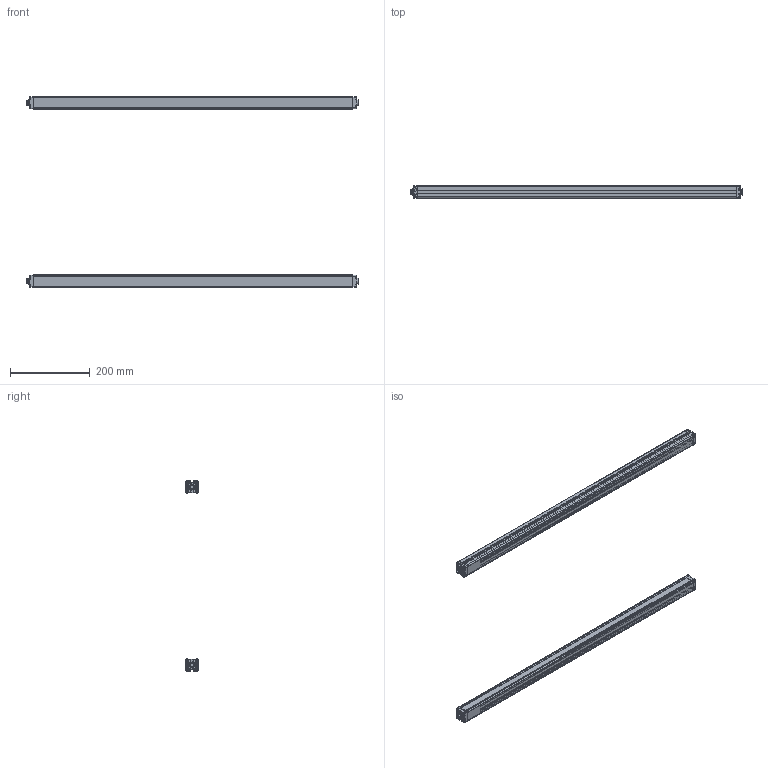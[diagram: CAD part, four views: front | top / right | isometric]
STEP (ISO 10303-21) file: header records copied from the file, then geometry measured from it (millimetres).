
FILE_DESCRIPTION((''),'2;1');
FILE_NAME('ASM0001_ASM','2019-02-27T',('Administrator'),(''),'PRO/ENGINEER BY PARAMETRIC TECHNOLOGY CORPORATION, 2002180','PRO/ENGINEER BY PARAMETRIC TECHNOLOGY CORPORATION, 2002180','');
FILE_SCHEMA(('CONFIG_CONTROL_DESIGN'));
Length unit declared in the file: millimetre
Products named in the file (10): 1; 2; 3; 4; 5; 7; 8; ASM0_ASM; 000000_ASM; ASM0001_ASM
Assembly tree (10 placements, depth 4):
  ASM0001_ASM
    000000_ASM  x2
      1
      2
      3
      4
      5
      ASM0_ASM
        7
        8
Bounding box: 832 x 30.3 x 478.6 mm (x, y, z)
Volume: 506417.2 mm3; surface area: 557446.8 mm2
Topology: 10 solids, 14 shells, 1672 faces, 4558 edges, 2934 vertices
Faces by surface type: plane 1332, cylinder 280, cone 60
Entity records: 26549 total; most frequent: CARTESIAN_POINT 4924, ORIENTED_EDGE 4554, DIRECTION 4271, EDGE_CURVE 2279, VECTOR 1931, LINE 1931, VERTEX_POINT 1467, AXIS2_PLACEMENT_3D 1170
